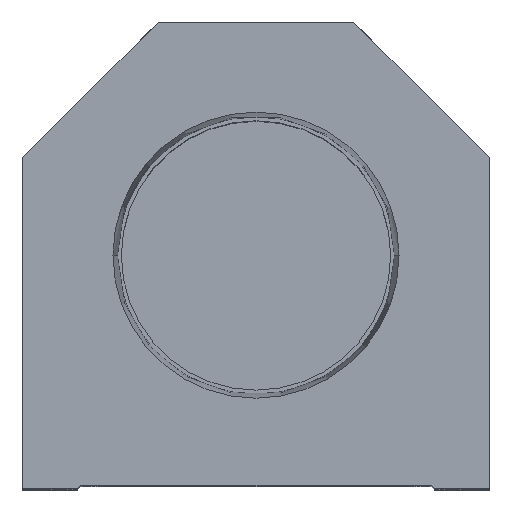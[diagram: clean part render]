
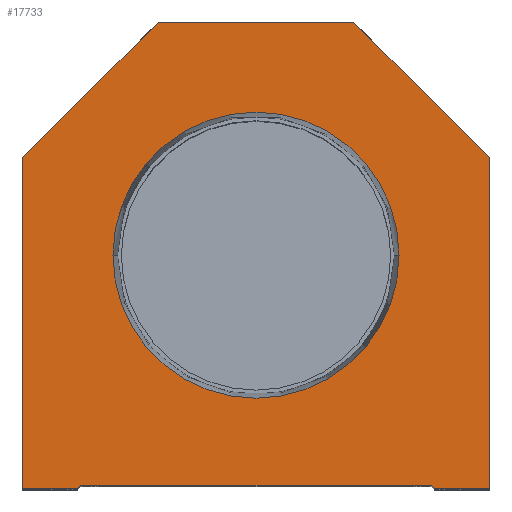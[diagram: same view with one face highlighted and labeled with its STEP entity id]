
A CAD part, top view. The second image highlights one B-rep face of the part: STEP entity #17733.
In plain terms, the highlighted planar face has unit normal (0, 0, 1).
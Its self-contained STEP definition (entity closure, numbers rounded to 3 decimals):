
#126 = VERTEX_POINT ( 'NONE', #10127 ) ;
#141 = LINE ( 'NONE', #5842, #5891 ) ;
#361 = CIRCLE ( 'NONE', #7983, 23.374 ) ;
#375 = AXIS2_PLACEMENT_3D ( 'NONE', #15191, #13888, #16617 ) ;
#382 = LINE ( 'NONE', #17681, #2174 ) ;
#581 = VERTEX_POINT ( 'NONE', #12072 ) ;
#625 = CARTESIAN_POINT ( 'NONE',  ( 16., 76.2, 0. ) ) ;
#667 = VERTEX_POINT ( 'NONE', #6143 ) ;
#1054 = ORIENTED_EDGE ( 'NONE', *, *, #7658, .T. ) ;
#1241 = ORIENTED_EDGE ( 'NONE', *, *, #16255, .T. ) ;
#1504 = CIRCLE ( 'NONE', #2418, 23.374 ) ;
#1647 = CARTESIAN_POINT ( 'NONE',  ( 0., 38.1, 0. ) ) ;
#1691 = DIRECTION ( 'NONE',  ( -0.707, -0.707, 0. ) ) ;
#1931 = LINE ( 'NONE', #7545, #7481 ) ;
#2174 = VECTOR ( 'NONE', #6183, 1000. ) ;
#2354 = CARTESIAN_POINT ( 'NONE',  ( 38.1, 0., 0. ) ) ;
#2416 = VERTEX_POINT ( 'NONE', #8875 ) ;
#2418 = AXIS2_PLACEMENT_3D ( 'NONE', #1647, #12901, #7270 ) ;
#2534 = EDGE_CURVE ( 'NONE', #4879, #667, #15468, .T. ) ;
#2993 = VERTEX_POINT ( 'NONE', #3256 ) ;
#3006 = CARTESIAN_POINT ( 'NONE',  ( -38.1, 54.1, 0. ) ) ;
#3167 = EDGE_CURVE ( 'NONE', #2993, #2416, #1504, .T. ) ;
#3198 = EDGE_LOOP ( 'NONE', ( #9575, #1054, #4811, #10221, #4175, #5643, #14111, #1241, #13000, #14227 ) ) ;
#3205 = VERTEX_POINT ( 'NONE', #5713 ) ;
#3209 = LINE ( 'NONE', #7319, #3976 ) ;
#3256 = CARTESIAN_POINT ( 'NONE',  ( 23.374, 38.1, 0. ) ) ;
#3450 = VECTOR ( 'NONE', #18124, 1000. ) ;
#3976 = VECTOR ( 'NONE', #1691, 1000. ) ;
#4175 = ORIENTED_EDGE ( 'NONE', *, *, #12694, .T. ) ;
#4335 = DIRECTION ( 'NONE',  ( 0., -1., 0. ) ) ;
#4436 = VERTEX_POINT ( 'NONE', #15223 ) ;
#4766 = VERTEX_POINT ( 'NONE', #16623 ) ;
#4811 = ORIENTED_EDGE ( 'NONE', *, *, #7228, .T. ) ;
#4879 = VERTEX_POINT ( 'NONE', #7238 ) ;
#5026 = PLANE ( 'NONE',  #375 ) ;
#5259 = VERTEX_POINT ( 'NONE', #3006 ) ;
#5643 = ORIENTED_EDGE ( 'NONE', *, *, #11121, .T. ) ;
#5689 = EDGE_CURVE ( 'NONE', #2416, #2993, #361, .T. ) ;
#5713 = CARTESIAN_POINT ( 'NONE',  ( -38.1, 0., 0. ) ) ;
#5751 = CARTESIAN_POINT ( 'NONE',  ( -38.1, 0., 0. ) ) ;
#5842 = CARTESIAN_POINT ( 'NONE',  ( 38.1, 54.1, 0. ) ) ;
#5891 = VECTOR ( 'NONE', #7389, 1000. ) ;
#6106 = EDGE_CURVE ( 'NONE', #3205, #15352, #1931, .T. ) ;
#6143 = CARTESIAN_POINT ( 'NONE',  ( 29.1, 0., 0. ) ) ;
#6183 = DIRECTION ( 'NONE',  ( 1., 0., 0. ) ) ;
#6282 = VECTOR ( 'NONE', #4335, 1000. ) ;
#6447 = LINE ( 'NONE', #625, #10960 ) ;
#6646 = LINE ( 'NONE', #16609, #3450 ) ;
#7228 = EDGE_CURVE ( 'NONE', #9274, #4879, #382, .T. ) ;
#7238 = CARTESIAN_POINT ( 'NONE',  ( 28.6, 0.5, 0. ) ) ;
#7270 = DIRECTION ( 'NONE',  ( 1., 0., 0. ) ) ;
#7319 = CARTESIAN_POINT ( 'NONE',  ( -38.1, 54.1, 0. ) ) ;
#7389 = DIRECTION ( 'NONE',  ( -0.707, 0.707, 0. ) ) ;
#7481 = VECTOR ( 'NONE', #12132, 1000. ) ;
#7545 = CARTESIAN_POINT ( 'NONE',  ( -28.6, 0., 0. ) ) ;
#7658 = EDGE_CURVE ( 'NONE', #15352, #9274, #6646, .T. ) ;
#7983 = AXIS2_PLACEMENT_3D ( 'NONE', #9698, #15176, #8181 ) ;
#8098 = FACE_OUTER_BOUND ( 'NONE', #3198, .T. ) ;
#8144 = VECTOR ( 'NONE', #18186, 1000. ) ;
#8181 = DIRECTION ( 'NONE',  ( 1., 0., 0. ) ) ;
#8251 = CARTESIAN_POINT ( 'NONE',  ( 28.6, 0., 0. ) ) ;
#8600 = VECTOR ( 'NONE', #9815, 1000. ) ;
#8820 = EDGE_CURVE ( 'NONE', #4436, #126, #141, .T. ) ;
#8875 = CARTESIAN_POINT ( 'NONE',  ( -23.374, 38.1, 0. ) ) ;
#9274 = VERTEX_POINT ( 'NONE', #10601 ) ;
#9575 = ORIENTED_EDGE ( 'NONE', *, *, #6106, .T. ) ;
#9662 = VECTOR ( 'NONE', #10916, 1000. ) ;
#9698 = CARTESIAN_POINT ( 'NONE',  ( 0., 38.1, 0. ) ) ;
#9815 = DIRECTION ( 'NONE',  ( 0.707, -0.707, 0. ) ) ;
#10127 = CARTESIAN_POINT ( 'NONE',  ( 16., 76.2, 0. ) ) ;
#10221 = ORIENTED_EDGE ( 'NONE', *, *, #2534, .T. ) ;
#10601 = CARTESIAN_POINT ( 'NONE',  ( -28.6, 0.5, 0. ) ) ;
#10916 = DIRECTION ( 'NONE',  ( 0., 1., 0. ) ) ;
#10960 = VECTOR ( 'NONE', #13955, 1000. ) ;
#11121 = EDGE_CURVE ( 'NONE', #581, #4436, #12456, .T. ) ;
#12072 = CARTESIAN_POINT ( 'NONE',  ( 38.1, 0., 0. ) ) ;
#12132 = DIRECTION ( 'NONE',  ( 1., 0., 0. ) ) ;
#12456 = LINE ( 'NONE', #2354, #9662 ) ;
#12541 = EDGE_CURVE ( 'NONE', #5259, #3205, #13202, .T. ) ;
#12694 = EDGE_CURVE ( 'NONE', #667, #581, #15533, .T. ) ;
#12901 = DIRECTION ( 'NONE',  ( 0., 0., 1. ) ) ;
#13000 = ORIENTED_EDGE ( 'NONE', *, *, #15435, .T. ) ;
#13202 = LINE ( 'NONE', #5751, #6282 ) ;
#13888 = DIRECTION ( 'NONE',  ( 0., 0., 1. ) ) ;
#13955 = DIRECTION ( 'NONE',  ( -1., 0., 0. ) ) ;
#14111 = ORIENTED_EDGE ( 'NONE', *, *, #8820, .T. ) ;
#14227 = ORIENTED_EDGE ( 'NONE', *, *, #12541, .T. ) ;
#15176 = DIRECTION ( 'NONE',  ( 0., 0., 1. ) ) ;
#15191 = CARTESIAN_POINT ( 'NONE',  ( 0., 0., 0. ) ) ;
#15223 = CARTESIAN_POINT ( 'NONE',  ( 38.1, 54.1, 0. ) ) ;
#15352 = VERTEX_POINT ( 'NONE', #17178 ) ;
#15435 = EDGE_CURVE ( 'NONE', #4766, #5259, #3209, .T. ) ;
#15468 = LINE ( 'NONE', #15659, #8600 ) ;
#15533 = LINE ( 'NONE', #8251, #8144 ) ;
#15659 = CARTESIAN_POINT ( 'NONE',  ( 14.55, 14.55, 0. ) ) ;
#15952 = ORIENTED_EDGE ( 'NONE', *, *, #5689, .F. ) ;
#16255 = EDGE_CURVE ( 'NONE', #126, #4766, #6447, .T. ) ;
#16269 = EDGE_LOOP ( 'NONE', ( #17367, #15952 ) ) ;
#16609 = CARTESIAN_POINT ( 'NONE',  ( -14.55, 14.55, 0. ) ) ;
#16617 = DIRECTION ( 'NONE',  ( 1., 0., 0. ) ) ;
#16623 = CARTESIAN_POINT ( 'NONE',  ( -16., 76.2, 0. ) ) ;
#17178 = CARTESIAN_POINT ( 'NONE',  ( -29.1, 0., 0. ) ) ;
#17367 = ORIENTED_EDGE ( 'NONE', *, *, #3167, .F. ) ;
#17681 = CARTESIAN_POINT ( 'NONE',  ( -28.6, 0.5, 0. ) ) ;
#17733 = ADVANCED_FACE ( 'NONE', ( #18033, #8098 ), #5026, .T. ) ;
#18033 = FACE_BOUND ( 'NONE', #16269, .T. ) ;
#18124 = DIRECTION ( 'NONE',  ( 0.707, 0.707, 0. ) ) ;
#18186 = DIRECTION ( 'NONE',  ( 1., 0., 0. ) ) ;
